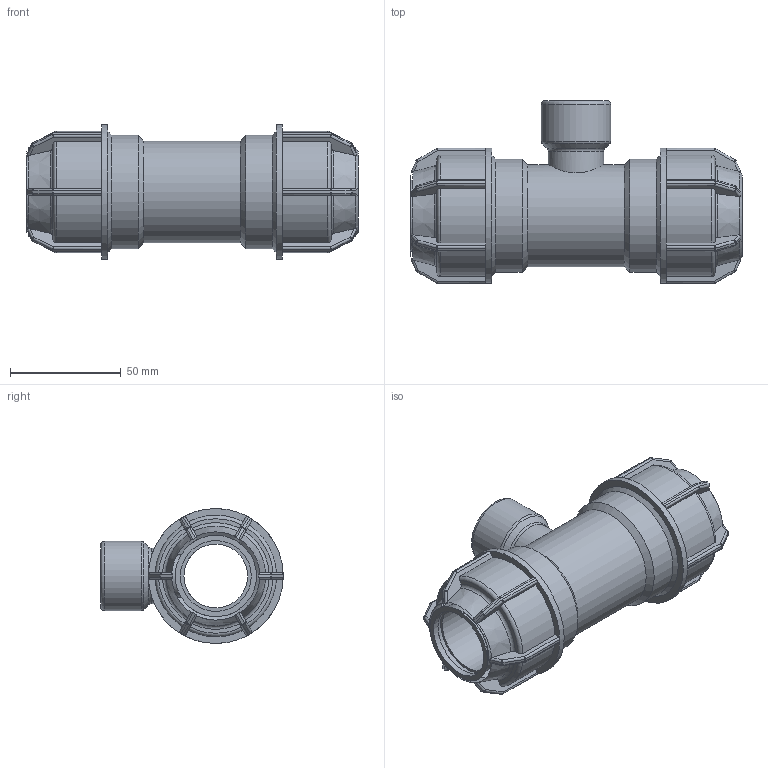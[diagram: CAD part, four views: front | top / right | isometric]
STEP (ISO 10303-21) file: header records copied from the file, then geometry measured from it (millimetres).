
FILE_DESCRIPTION(/* description */ ('PLASSON L.14 TEE FEMALE ADAPTOR (SILVER) 32 x 3/4" x 32'),/* implementation_level */ '2;1');
FILE_NAME(/* name */ 'C:\Dropbox\KIMPROJECTS-Inventor\99-16-3568-Processing\Silver Fittings\141400\141400032007.ipt.stp',/* time_stamp */ '2018-04-16T11:15:51+03:00',/* author */ ('KIM'),/* organization */ (''),/* preprocessor_version */ 'ST-DEVELOPER v15.6',/* originating_system */ 'Autodesk Inventor 2015',/* authorisation */ '');
FILE_SCHEMA (('AUTOMOTIVE_DESIGN { 1 0 10303 214 3 1 1 }'));
Length unit declared in the file: millimetre
Products named in the file (1): 141400032007
Bounding box: 150 x 82.5 x 61 mm (x, y, z)
Volume: 189311.9 mm3; surface area: 51437 mm2
Topology: 1 solids, 1 shells, 413 faces, 992 edges, 568 vertices
Faces by surface type: plane 193, cylinder 122, sphere 48, torus 31, cone 19
Full cylindrical faces by diameter (mm): 19.2 x1, 24.117 x1, 25.082 x1, 28.8 x1, 31.352 x1, 32 x4, 46.08 x1, 51.2 x2, 61 x2
Entity records: 12016 total; most frequent: CARTESIAN_POINT 3121, DIRECTION 1872, ORIENTED_EDGE 1822, EDGE_CURVE 911, AXIS2_PLACEMENT_3D 756, VERTEX_POINT 539, EDGE_LOOP 450, FACE_OUTER_BOUND 410
